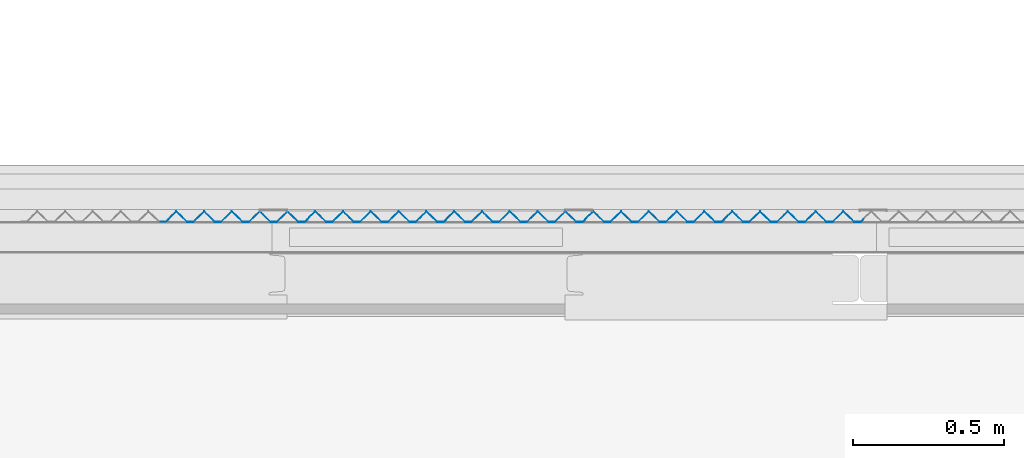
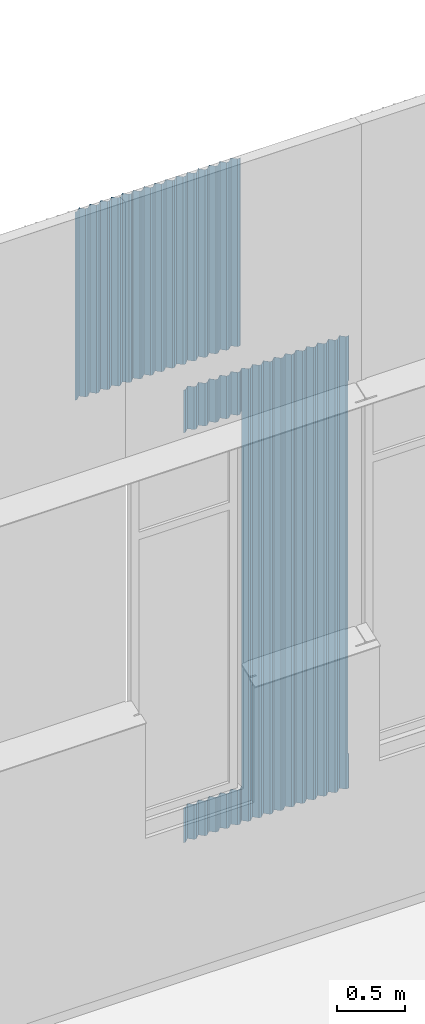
# One storey, part 108 of 338: 6 building element parts, 4 elements without a shape of their own.
"""IFC2X3 building model written with IfcOpenShell, lengths in millimetres."""

import ifcopenshell
import ifcopenshell.guid

model = None  # the IFC model being written
_history = None  # IfcOwnerHistory: only IFC2X3 demands one
_inside = {}  # id of a spatial element -> (the spatial element, [elements in it])
_under = {}  # id of a project, library or spatial element -> (it, [spatial elements below it])
_declared = {}  # id of a project -> (the project, [libraries it declares])
_typed = {}  # id of a type object -> (the type object, [elements of that type])
_made_of = {}  # id of a material, layer set ... -> (it, [elements and type objects made of it])


def new_model(schema):
    """Start an empty IFC model of exactly this schema.

    Asked for "IFC4X3", IfcOpenShell would pick the latest addendum, in which some entities
    have other attributes; the version numbers below select the first issue.
    IFC2X3 requires an IfcOwnerHistory on every rooted entity: one is made here for all.
    """
    global model, _history
    if schema == "IFC4X3":
        model = ifcopenshell.file(schema_version=(4, 3, 0, 0))
    else:
        model = ifcopenshell.file(schema=schema)
    _inside.clear()
    _under.clear()
    _declared.clear()
    _typed.clear()
    _made_of.clear()
    _history = None
    if model.schema == "IFC2X3":
        org = make("IfcOrganization", Name="unknown")
        user = make(
            "IfcPersonAndOrganization",
            ThePerson=make("IfcPerson", FamilyName="unknown"),
            TheOrganization=org,
        )
        app = make(
            "IfcApplication",
            ApplicationDeveloper=org,
            Version="unknown",
            ApplicationFullName="unknown",
            ApplicationIdentifier="unknown",
        )
        _history = make(
            "IfcOwnerHistory",
            OwningUser=user,
            OwningApplication=app,
            ChangeAction="ADDED",
            CreationDate=0,
        )
    return model


def make(cls, **values):
    """One entity of the class cls with the attributes given. An attribute that is None is left unset."""
    return model.create_entity(
        cls, **{name: value for name, value in values.items() if value is not None}
    )


def entity(cls, *values):
    """Any entity or typed value of the class cls, its attributes in the order of the schema. None: left unset."""
    e = model.create_entity(cls)
    for i, value in enumerate(values):
        if value is not None:
            e[i] = value
    return e


def rooted(cls, **values):
    """An entity with a GlobalId (a new one), such as an element, a storey or a relation."""
    return make(cls, GlobalId=ifcopenshell.guid.new(), OwnerHistory=_history, **values)


def si_unit(unit_type, name, prefix=None):
    """IfcSIUnit, for example si_unit("LENGTHUNIT", "METRE", prefix="MILLI")."""
    return make("IfcSIUnit", UnitType=unit_type, Prefix=prefix, Name=name)


def converted_unit(unit_type, name, factor, base, dimensions=None, offset=None):
    """IfcConversionBasedUnit, such as the inch: factor (a typed value) times the base unit."""
    return make(
        "IfcConversionBasedUnit"
        if offset is None
        else "IfcConversionBasedUnitWithOffset",
        ConversionOffset=offset,
        Dimensions=None
        if dimensions is None
        else entity("IfcDimensionalExponents", *dimensions),
        UnitType=unit_type,
        Name=name,
        ConversionFactor=make(
            "IfcMeasureWithUnit", ValueComponent=factor, UnitComponent=base
        ),
    )


def derived_unit(unit_type, elements):
    """IfcDerivedUnit: a product of units, each with its exponent."""
    return make(
        "IfcDerivedUnit",
        Elements=[
            make("IfcDerivedUnitElement", Unit=unit, Exponent=power)
            for unit, power in elements
        ],
        UnitType=unit_type,
    )


def money_unit(currency):
    """IfcMonetaryUnit."""
    return make("IfcMonetaryUnit", Currency=currency)


def assignment(units):
    """IfcUnitAssignment: the units of a project."""
    return None if units is None else make("IfcUnitAssignment", Units=units)


def point(xyz):
    """IfcCartesianPoint."""
    return None if xyz is None else make("IfcCartesianPoint", Coordinates=xyz)


def direction(xyz):
    """IfcDirection."""
    return None if xyz is None else make("IfcDirection", DirectionRatios=xyz)


def frame(location, z_axis=None, x_axis=None):
    """IfcAxis2Placement3D, a coordinate frame: its origin and axes. An axis left out is left unset."""
    return make(
        "IfcAxis2Placement3D",
        Location=point(location),
        Axis=direction(z_axis),
        RefDirection=direction(x_axis),
    )


def origin_with_axes():
    """The frame at (0, 0, 0) with the z axis (0, 0, 1) and the x axis (1, 0, 0) written out."""
    return frame((0.0, 0.0, 0.0), z_axis=(0.0, 0.0, 1.0), x_axis=(1.0, 0.0, 0.0))


def place(relative_to, where):
    """IfcLocalPlacement: puts the frame where relative to a parent placement (None: the world)."""
    return make(
        "IfcLocalPlacement", PlacementRelTo=relative_to, RelativePlacement=where
    )


def context(
    kind, dimensions, precision=None, world=None, true_north=None, identifier=None
):
    """IfcGeometricRepresentationContext, for example the 3D "Model" context."""
    return make(
        "IfcGeometricRepresentationContext",
        ContextIdentifier=identifier,
        ContextType=kind,
        CoordinateSpaceDimension=dimensions,
        Precision=precision,
        WorldCoordinateSystem=world,
        TrueNorth=true_north,
    )


def subcontext(parent, identifier, kind, view, scale=None):
    """IfcGeometricRepresentationSubContext, for example "Body" below "Model"."""
    return make(
        "IfcGeometricRepresentationSubContext",
        ContextIdentifier=identifier,
        ContextType=kind,
        ParentContext=parent,
        TargetScale=scale,
        TargetView=view,
    )


def project(units=None, contexts=None):
    """IfcProject with its units and contexts."""
    return rooted(
        "IfcProject",
        Name="project",
        RepresentationContexts=contexts,
        UnitsInContext=assignment(units),
    )


def spatial(cls, under=None, at=None, **own):
    """A site, building, storey or space (cls), placed at a placement, below another one or the project."""
    s = rooted(cls, ObjectPlacement=at, **own)
    if under is not None:
        _under.setdefault(under.id(), (under, []))[1].append(s)
    return s


def faces_of(points, faces, orient=None, outer=None):
    """IfcFace entities. A face is a list of loops; a loop is a list of indices into points, from 0.

    orient and outer hold one flag for each loop. By default every Orientation is true, the
    first loop of a face is its IfcFaceOuterBound and the others are IfcFaceBound.
    """
    made = []
    for i, loops in enumerate(faces):
        bounds = []
        for j, loop in enumerate(loops):
            is_outer = j == 0 if outer is None else outer[i][j]
            bounds.append(
                make(
                    "IfcFaceOuterBound" if is_outer else "IfcFaceBound",
                    Bound=make("IfcPolyLoop", Polygon=[points[k] for k in loop]),
                    Orientation=True if orient is None else orient[i][j],
                )
            )
        made.append(make("IfcFace", Bounds=bounds))
    return made


def faceted_brep(points, faces, orient=None, outer=None, voids=None):
    """IfcFacetedBrep: a solid bounded by flat faces; with voids (closed shells), ...WithVoids."""
    shared = [point(p) for p in points]
    hull = make("IfcClosedShell", CfsFaces=faces_of(shared, faces, orient, outer))
    if voids is None:
        return make("IfcFacetedBrep", Outer=hull)
    return make(
        "IfcFacetedBrepWithVoids",
        Outer=hull,
        Voids=[
            make(cls, CfsFaces=faces_of(shared, fs, o, b)) for cls, fs, o, b in voids
        ],
    )


def shape(context_of_items, identifier, shape_type, items):
    """IfcShapeRepresentation: the items that make up one representation, for example the "Body"."""
    return make(
        "IfcShapeRepresentation",
        ContextOfItems=context_of_items,
        RepresentationIdentifier=identifier,
        RepresentationType=shape_type,
        Items=items,
    )


def material(Name=None, Category=None):
    """IfcMaterial."""
    return make("IfcMaterial", Name=Name, Category=Category)


def made_of(thing, what):
    """Note that an element or type object is made of a material, layer set ...; save() writes the relation."""
    if what is not None:
        _made_of.setdefault(what.id(), (what, []))[1].append(thing)
    return thing


def type_object(cls, material=None, **own):
    """A type object (cls), such as IfcWallType, which elements share."""
    return made_of(rooted(cls, **own), material)


def element(
    cls,
    number,
    at=None,
    inside=None,
    cuts=None,
    type_object=None,
    material=None,
    context=None,
    identifier="Body",
    shape_type=None,
    held_by="IfcProductDefinitionShape",
    body=None,
    shapes=None,
    **own,
):
    """One element of the class cls, such as IfcWall. Its Tag is "e" and its number.

    at: its placement. inside: the storey or other place that contains it. cuts: it is an
    opening in that element (IfcRelVoidsElement). A single representation is given by context,
    identifier, shape_type and body (its items); several are given by shapes. held_by: the class
    of the entity that holds the representations. save() writes the other relations.
    """
    e = rooted(cls, Tag="e%d" % number, ObjectPlacement=at, **own)
    if body is not None:
        shapes = [shape(context, identifier, shape_type, body)]
    if shapes is not None:
        e.Representation = make(held_by, Representations=shapes)
    if inside is not None:
        _inside.setdefault(inside.id(), (inside, []))[1].append(e)
    if cuts is not None:
        rooted(
            "IfcRelVoidsElement", RelatingBuildingElement=cuts, RelatedOpeningElement=e
        )
    if type_object is not None:
        _typed.setdefault(type_object.id(), (type_object, []))[1].append(e)
    return made_of(e, material)


def aggregate(whole, parts):
    """IfcRelAggregates: a whole, such as a stair, and the parts it consists of."""
    return rooted("IfcRelAggregates", RelatingObject=whole, RelatedObjects=parts)


def save(model, path):
    """Write the relations noted so far, then the file.

    IfcRelAggregates (storeys below a building ...), IfcRelContainedInSpatialStructure (elements
    in a storey), IfcRelDefinesByType, IfcRelAssociatesMaterial and IfcRelDeclares: one each for
    every whole, place, type object, material and project.
    """
    for whole, parts in _under.values():
        aggregate(whole, parts)
    for where, things in _inside.values():
        rooted(
            "IfcRelContainedInSpatialStructure",
            RelatedElements=things,
            RelatingStructure=where,
        )
    for kind, things in _typed.values():
        rooted("IfcRelDefinesByType", RelatedObjects=things, RelatingType=kind)
    for what, things in _made_of.values():
        rooted("IfcRelAssociatesMaterial", RelatedObjects=things, RelatingMaterial=what)
    for by, libraries in _declared.values():
        rooted("IfcRelDeclares", RelatingContext=by, RelatedDefinitions=libraries)
    model.write(path)


model = new_model("IFC2X3")

# Units and contexts
model_context = context("Model", 3, precision=0.01, world=origin_with_axes(), true_north=direction((0.0, 1.0)))
plan_context = context("Plan", 3, precision=0.01, world=origin_with_axes(), true_north=direction((0.0, 1.0)))
body_context = subcontext(model_context, "Body", "Model", "MODEL_VIEW")
ifc_project = project(units=[si_unit("LENGTHUNIT", "METRE", prefix="MILLI"), si_unit("AREAUNIT", "SQUARE_METRE"), si_unit("VOLUMEUNIT", "CUBIC_METRE"), converted_unit("PLANEANGLEUNIT", "DEGREE", entity("IfcPlaneAngleMeasure", 0.0174532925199), si_unit("PLANEANGLEUNIT", "RADIAN"), dimensions=[0, 0, 0, 0, 0, 0, 0]), money_unit("EUR"), converted_unit("TIMEUNIT", "Year", entity("IfcTimeMeasure", 31556926.0), si_unit("TIMEUNIT", "SECOND"), dimensions=[0, 0, 1, 0, 0, 0, 0]), si_unit("MASSUNIT", "GRAM", prefix="KILO"), si_unit("THERMODYNAMICTEMPERATUREUNIT", "DEGREE_CELSIUS"), si_unit("LUMINOUSINTENSITYUNIT", "LUMEN"), si_unit("ENERGYUNIT", "JOULE", prefix="MEGA"), derived_unit("THERMALCONDUCTANCEUNIT", [(si_unit("POWERUNIT", "WATT"), 1), (si_unit("LENGTHUNIT", "METRE"), -1), (si_unit("THERMODYNAMICTEMPERATUREUNIT", "KELVIN"), -1)]), derived_unit("SPECIFICHEATCAPACITYUNIT", [(si_unit("ENERGYUNIT", "JOULE"), 1), (si_unit("MASSUNIT", "GRAM", prefix="KILO"), -1), (si_unit("THERMODYNAMICTEMPERATUREUNIT", "KELVIN"), -1)]), derived_unit("MASSDENSITYUNIT", [(si_unit("MASSUNIT", "GRAM", prefix="KILO"), 1), (si_unit("VOLUMEUNIT", "CUBIC_METRE"), -1)])], contexts=[model_context, plan_context])

# Site, building, storey
site_placement = place(None, origin_with_axes())
site = spatial("IfcSite", under=ifc_project, at=site_placement, Name="Fortuinstraat Woensdrecht", CompositionType="ELEMENT")
building_placement = place(site_placement, origin_with_axes())
building = spatial("IfcBuilding", under=site, at=building_placement, Name="IKC Fortuna", CompositionType="ELEMENT")
storey_placement = place(building_placement, origin_with_axes())
storey = spatial("IfcBuildingStorey", under=building, at=storey_placement, Name="00 begane grond", CompositionType="ELEMENT", Elevation=0.0)

# Proxy, building element parts
building_element_proxy_type = type_object("IfcBuildingElementProxyType", Name="21 Sandwich custom pyramid 946 x 37", PredefinedType="NOTDEFINED")
proxy_1_placement = place(storey_placement, frame((52349.6588228, 35596.2971073, 1000.0), z_axis=(0.0, 0.0, 1.0), x_axis=(1.0, 0.0, 0.0)))
proxy_1 = element("IfcBuildingElementProxy", 1, at=proxy_1_placement, inside=storey, type_object=building_element_proxy_type, Name="41_Generieke bekleding & afwerking buiten_sandwich custom pyramid")
ifc_material = material(Name="Metaal - Aluminium")
building_element_part_1_placement = place(proxy_1_placement, origin_with_axes())
building_element_part_1 = element("IfcBuildingElementPart", 2, at=building_element_part_1_placement, material=ifc_material, Name="Metaal - Aluminium", context=body_context, shape_type="Brep", body=[
    faceted_brep([(16.7470988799, 2.39999686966, 0.0), (16.7470988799, 2.39999686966, 315.028185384), (48.7681936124, 33.5316117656, 315.028185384), (48.7681936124, 33.5316117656, 3675.02818538), (16.7470988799, 2.39999686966, 3675.02818538), (16.7470988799, 2.39999686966, 4060.0), (52.0000026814, 36.6736482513, 4060.0), (52.0000026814, 36.6736482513, 0.0), (0.0, 2.39999686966, 0.0), (0.0, 2.39999686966, 315.028185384), (48.7681936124, 31.8579636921, 315.028185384), (0.0, 1.20000548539, 315.028185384), (17.2342926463, 1.20000548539, 315.028185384), (48.7681936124, 31.8579636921, 3675.02818538), (0.0, 2.39999686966, 3675.02818538), (17.2342926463, 1.20000548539, 3675.02818538), (0.0, 1.20000548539, 3675.02818538), (0.0, 2.39999686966, 4060.0), (0.0, 1.20000548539, 4060.0), (17.2342926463, 1.20000548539, 4060.0), (52.0000026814, 35.0000001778, 4060.0), (87.9999980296, 0.0, 4060.0), (108.000000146, 0.0, 4060.0), (143.999995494, 35.0000001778, 4060.0), (180.000004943, 0.0, 4060.0), (199.999992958, 0.0, 4060.0), (236.000002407, 35.0000001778, 4060.0), (271.999997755, 0.0, 4060.0), (291.999999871, 0.0, 4060.0), (327.99999522, 35.0000001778, 4060.0), (364.000004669, 0.0, 4060.0), (384.000006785, 0.0, 4060.0), (420.000002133, 35.0000001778, 4060.0), (455.999997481, 0.0, 4060.0), (477.721464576, 0.0, 4060.0), (486.309372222, 8.34935896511, 4060.0), (485.472879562, 9.20975302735, 4060.0), (477.23428491, 1.20000548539, 4060.0), (460.000006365, 1.20000548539, 4060.0), (456.487191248, 1.20000548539, 4060.0), (420.000002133, 36.6736482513, 4060.0), (383.512813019, 1.20000548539, 4060.0), (364.487184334, 1.20000548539, 4060.0), (327.99999522, 36.6736482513, 4060.0), (291.512820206, 1.20000548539, 4060.0), (272.487191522, 1.20000548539, 4060.0), (236.000002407, 36.6736482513, 4060.0), (199.512813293, 1.20000548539, 4060.0), (180.487184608, 1.20000548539, 4060.0), (143.999995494, 36.6736482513, 4060.0), (107.51282048, 1.20000548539, 4060.0), (88.487191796, 1.20000548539, 4060.0), (88.487191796, 1.20000548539, 0.0), (17.2342926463, 1.20000548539, 0.0), (0.0, 1.20000548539, 0.0), (107.51282048, 1.20000548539, 0.0), (143.999995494, 36.6736482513, 0.0), (180.487184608, 1.20000548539, 0.0), (199.512813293, 1.20000548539, 0.0), (236.000002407, 36.6736482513, 0.0), (272.487191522, 1.20000548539, 0.0), (291.512820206, 1.20000548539, 0.0), (327.99999522, 36.6736482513, 0.0), (364.487184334, 1.20000548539, 0.0), (383.512813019, 1.20000548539, 0.0), (420.000002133, 36.6736482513, 0.0), (456.487191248, 1.20000548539, 0.0), (460.000006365, 1.20000548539, 0.0), (477.23428491, 1.20000548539, 0.0), (485.472879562, 9.20975302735, 0.0), (486.309372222, 8.34935896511, 0.0), (477.721464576, 0.0, 0.0), (455.999997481, 0.0, 0.0), (420.000002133, 35.0000001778, 0.0), (384.000006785, 0.0, 0.0), (364.000004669, 0.0, 0.0), (327.99999522, 35.0000001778, 0.0), (291.999999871, 0.0, 0.0), (271.999997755, 0.0, 0.0), (236.000002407, 35.0000001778, 0.0), (199.999992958, 0.0, 0.0), (180.000004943, 0.0, 0.0), (143.999995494, 35.0000001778, 0.0), (108.000000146, 0.0, 0.0), (87.9999980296, 0.0, 0.0), (52.0000026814, 35.0000001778, 0.0)], [[[0, 1, 2, 3, 4, 5, 6, 7]], [[8, 9, 1, 0]], [[10, 2, 1, 9, 11, 12]], [[13, 3, 2, 10]], [[14, 4, 3, 13, 15, 16]], [[5, 4, 14, 17]], [[6, 5, 17, 18, 19, 20, 21, 22, 23, 24, 25, 26, 27, 28, 29, 30, 31, 32, 33, 34, 35, 36, 37, 38, 39, 40, 41, 42, 43, 44, 45, 46, 47, 48, 49, 50, 51]], [[6, 51, 52, 7]], [[53, 54, 8, 0, 7, 52, 55, 56, 57, 58, 59, 60, 61, 62, 63, 64, 65, 66, 67, 68, 69, 70, 71, 72, 73, 74, 75, 76, 77, 78, 79, 80, 81, 82, 83, 84, 85]], [[54, 11, 9, 8]], [[53, 12, 11, 54]], [[13, 10, 12, 53, 85, 20, 19, 15]], [[18, 16, 15, 19]], [[17, 14, 16, 18]], [[21, 20, 85, 84]], [[22, 21, 84, 83]], [[23, 22, 83, 82]], [[24, 23, 82, 81]], [[25, 24, 81, 80]], [[26, 25, 80, 79]], [[27, 26, 79, 78]], [[28, 27, 78, 77]], [[29, 28, 77, 76]], [[30, 29, 76, 75]], [[31, 30, 75, 74]], [[32, 31, 74, 73]], [[33, 32, 73, 72]], [[34, 33, 72, 71]], [[35, 34, 71, 70]], [[36, 35, 70, 69]], [[37, 36, 69, 68]], [[38, 37, 68, 67]], [[39, 38, 67, 66]], [[40, 39, 66, 65]], [[41, 40, 65, 64]], [[42, 41, 64, 63]], [[43, 42, 63, 62]], [[44, 43, 62, 61]], [[45, 44, 61, 60]], [[46, 45, 60, 59]], [[47, 46, 59, 58]], [[48, 47, 58, 57]], [[49, 48, 57, 56]], [[50, 49, 56, 55]], [[51, 50, 55, 52]]]),
])
building_element_part_2_placement = place(proxy_1_placement, origin_with_axes())
building_element_part_2 = element("IfcBuildingElementPart", 3, at=building_element_part_2_placement, material=ifc_material, Name="Metaal - Aluminium", context=body_context, shape_type="Brep", body=[
    faceted_brep([(937.721470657, 0.0, 4060.0), (937.721470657, 0.0, 3655.00076674), (946.309378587, 8.34935493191, 3655.00076674), (946.309378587, 8.34935493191, 4060.0), (933.768234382, 0.0, 310.623682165), (933.768234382, 0.0, 3655.00076674), (916.0, 0.0, 4060.0), (916.0, 0.0, 0.0), (937.721470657, 0.0, 0.0), (937.721470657, 0.0, 310.623682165), (937.234285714, 1.2, 3655.00076674), (945.472884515, 9.20974883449, 3655.00076674), (933.768234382, 1.2, 3655.00076674), (945.472884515, 9.20974883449, 4060.0), (476.747100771, 2.4, 4060.0), (460.0, 2.4, 4060.0), (460.0, 1.2, 4060.0), (477.234285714, 1.2, 4060.0), (485.472879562, 9.20975302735, 4060.0), (512.0, 35.0, 4060.0), (548.0, 0.0, 4060.0), (568.0, 0.0, 4060.0), (604.0, 35.0, 4060.0), (640.0, 0.0, 4060.0), (660.0, 0.0, 4060.0), (696.0, 35.0, 4060.0), (732.0, 0.0, 4060.0), (752.0, 0.0, 4060.0), (788.0, 35.0, 4060.0), (824.0, 0.0, 4060.0), (844.0, 0.0, 4060.0), (880.0, 35.0, 4060.0), (937.234285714, 1.2, 4060.0), (916.487184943, 1.2, 4060.0), (880.0, 36.6736520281, 4060.0), (843.512815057, 1.2, 4060.0), (824.487184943, 1.2, 4060.0), (788.0, 36.6736520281, 4060.0), (751.512815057, 1.2, 4060.0), (732.487184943, 1.2, 4060.0), (696.0, 36.6736520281, 4060.0), (659.512815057, 1.2, 4060.0), (640.487184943, 1.2, 4060.0), (604.0, 36.6736520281, 4060.0), (567.512815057, 1.2, 4060.0), (548.487184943, 1.2, 4060.0), (512.0, 36.6736520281, 4060.0), (933.768234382, 1.2, 310.623682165), (880.0, 35.0, 0.0), (485.472879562, 9.20975302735, 0.0), (477.234285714, 1.2, 0.0), (460.0, 1.2, 0.0), (460.0, 2.4, 0.0), (476.747100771, 2.4, 0.0), (512.0, 36.6736520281, 0.0), (548.487184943, 1.2, 0.0), (567.512815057, 1.2, 0.0), (604.0, 36.6736520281, 0.0), (640.487184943, 1.2, 0.0), (659.512815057, 1.2, 0.0), (696.0, 36.6736520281, 0.0), (732.487184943, 1.2, 0.0), (751.512815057, 1.2, 0.0), (788.0, 36.6736520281, 0.0), (824.487184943, 1.2, 0.0), (843.512815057, 1.2, 0.0), (880.0, 36.6736520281, 0.0), (916.487184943, 1.2, 0.0), (937.234285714, 1.2, 0.0), (945.472884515, 9.20974883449, 0.0), (946.309378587, 8.34935493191, 0.0), (844.0, 0.0, 0.0), (824.0, 0.0, 0.0), (788.0, 35.0, 0.0), (752.0, 0.0, 0.0), (732.0, 0.0, 0.0), (696.0, 35.0, 0.0), (660.0, 0.0, 0.0), (640.0, 0.0, 0.0), (604.0, 35.0, 0.0), (568.0, 0.0, 0.0), (548.0, 0.0, 0.0), (512.0, 35.0, 0.0), (946.309378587, 8.34935493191, 310.623682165), (945.472884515, 9.20974883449, 310.623682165), (937.234285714, 1.2, 310.623682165)], [[[0, 1, 2, 3]], [[4, 5, 1, 0, 6, 7, 8, 9]], [[10, 11, 2, 1, 5, 12]], [[3, 2, 11, 13]], [[14, 15, 16, 17, 18, 19, 20, 21, 22, 23, 24, 25, 26, 27, 28, 29, 30, 31, 6, 0, 3, 13, 32, 33, 34, 35, 36, 37, 38, 39, 40, 41, 42, 43, 44, 45, 46]], [[4, 47, 12, 5]], [[6, 31, 48, 7]], [[49, 50, 51, 52, 53, 54, 55, 56, 57, 58, 59, 60, 61, 62, 63, 64, 65, 66, 67, 68, 69, 70, 8, 7, 48, 71, 72, 73, 74, 75, 76, 77, 78, 79, 80, 81, 82]], [[70, 83, 9, 8]], [[4, 9, 83, 84, 85, 47]], [[13, 11, 10, 32]], [[12, 47, 85, 68, 67, 33, 32, 10]], [[15, 14, 53, 52]], [[16, 15, 52, 51]], [[17, 16, 51, 50]], [[18, 17, 50, 49]], [[19, 18, 49, 82]], [[20, 19, 82, 81]], [[21, 20, 81, 80]], [[22, 21, 80, 79]], [[23, 22, 79, 78]], [[24, 23, 78, 77]], [[25, 24, 77, 76]], [[26, 25, 76, 75]], [[27, 26, 75, 74]], [[28, 27, 74, 73]], [[29, 28, 73, 72]], [[30, 29, 72, 71]], [[31, 30, 71, 48]], [[34, 33, 67, 66]], [[35, 34, 66, 65]], [[36, 35, 65, 64]], [[37, 36, 64, 63]], [[38, 37, 63, 62]], [[39, 38, 62, 61]], [[40, 39, 61, 60]], [[41, 40, 60, 59]], [[42, 41, 59, 58]], [[43, 42, 58, 57]], [[44, 43, 57, 56]], [[45, 44, 56, 55]], [[46, 45, 55, 54]], [[14, 46, 54, 53]], [[68, 85, 84, 69]], [[69, 84, 83, 70]]]),
])
aggregate(proxy_1, [building_element_part_1, building_element_part_2])

# Proxy, building element part
proxy_2_placement = place(storey_placement, frame((51429.6588228, 35596.2971073, 1000.0), z_axis=(0.0, 0.0, 1.0), x_axis=(1.0, 0.0, 0.0)))
proxy_2 = element("IfcBuildingElementProxy", 4, at=proxy_2_placement, inside=storey, type_object=building_element_proxy_type, Name="41_Generieke bekleding & afwerking buiten_sandwich custom pyramid")
building_element_part_3_placement = place(proxy_2_placement, origin_with_axes())
building_element_part_3 = element("IfcBuildingElementPart", 5, at=building_element_part_3_placement, material=ifc_material, Name="Metaal - Aluminium", context=body_context, shape_type="Brep", body=[
    faceted_brep([(945.472884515, 9.20974883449, 0.0), (945.472884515, 9.20974883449, 315.028185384), (946.309378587, 8.34935493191, 315.028185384), (946.309378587, 8.34935493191, 0.0), (937.234285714, 1.2, 0.0), (937.234285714, 1.2, 315.028185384), (916.0, 0.0, 315.028185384), (937.721470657, 0.0, 315.028185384), (916.487184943, 1.2, 315.028185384), (880.0, 36.6736520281, 315.028185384), (843.512815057, 1.2, 315.028185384), (824.487184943, 1.2, 315.028185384), (788.0, 36.6736520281, 315.028185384), (751.512815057, 1.2, 315.028185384), (732.487184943, 1.2, 315.028185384), (696.0, 36.6736520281, 315.028185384), (659.512815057, 1.2, 315.028185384), (640.487184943, 1.2, 315.028185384), (604.0, 36.6736520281, 315.028185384), (567.512815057, 1.2, 315.028185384), (548.487184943, 1.2, 315.028185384), (512.0, 36.6736520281, 315.028185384), (476.747100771, 2.4, 315.028185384), (460.0, 2.4, 315.028185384), (460.0, 1.2, 315.028185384), (477.234285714, 1.2, 315.028185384), (485.472879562, 9.20975302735, 315.028185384), (512.0, 35.0, 315.028185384), (548.0, 0.0, 315.028185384), (568.0, 0.0, 315.028185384), (604.0, 35.0, 315.028185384), (640.0, 0.0, 315.028185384), (660.0, 0.0, 315.028185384), (696.0, 35.0, 315.028185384), (732.0, 0.0, 315.028185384), (752.0, 0.0, 315.028185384), (788.0, 35.0, 315.028185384), (824.0, 0.0, 315.028185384), (844.0, 0.0, 315.028185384), (880.0, 35.0, 315.028185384), (937.721470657, 0.0, 0.0), (485.472879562, 9.20975302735, 0.0), (477.234285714, 1.2, 0.0), (460.0, 1.2, 0.0), (460.0, 2.4, 0.0), (476.747100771, 2.4, 0.0), (512.0, 36.6736520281, 0.0), (548.487184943, 1.2, 0.0), (567.512815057, 1.2, 0.0), (604.0, 36.6736520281, 0.0), (640.487184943, 1.2, 0.0), (659.512815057, 1.2, 0.0), (696.0, 36.6736520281, 0.0), (732.487184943, 1.2, 0.0), (751.512815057, 1.2, 0.0), (788.0, 36.6736520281, 0.0), (824.487184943, 1.2, 0.0), (843.512815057, 1.2, 0.0), (880.0, 36.6736520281, 0.0), (916.487184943, 1.2, 0.0), (916.0, 0.0, 0.0), (880.0, 35.0, 0.0), (844.0, 0.0, 0.0), (824.0, 0.0, 0.0), (788.0, 35.0, 0.0), (752.0, 0.0, 0.0), (732.0, 0.0, 0.0), (696.0, 35.0, 0.0), (660.0, 0.0, 0.0), (640.0, 0.0, 0.0), (604.0, 35.0, 0.0), (568.0, 0.0, 0.0), (548.0, 0.0, 0.0), (512.0, 35.0, 0.0)], [[[0, 1, 2, 3]], [[4, 5, 1, 0]], [[6, 7, 2, 1, 5, 8, 9, 10, 11, 12, 13, 14, 15, 16, 17, 18, 19, 20, 21, 22, 23, 24, 25, 26, 27, 28, 29, 30, 31, 32, 33, 34, 35, 36, 37, 38, 39]], [[3, 2, 7, 40]], [[41, 42, 43, 44, 45, 46, 47, 48, 49, 50, 51, 52, 53, 54, 55, 56, 57, 58, 59, 4, 0, 3, 40, 60, 61, 62, 63, 64, 65, 66, 67, 68, 69, 70, 71, 72, 73]], [[59, 8, 5, 4]], [[40, 7, 6, 60]], [[58, 9, 8, 59]], [[57, 10, 9, 58]], [[56, 11, 10, 57]], [[55, 12, 11, 56]], [[54, 13, 12, 55]], [[53, 14, 13, 54]], [[52, 15, 14, 53]], [[51, 16, 15, 52]], [[50, 17, 16, 51]], [[49, 18, 17, 50]], [[48, 19, 18, 49]], [[47, 20, 19, 48]], [[46, 21, 20, 47]], [[45, 22, 21, 46]], [[44, 23, 22, 45]], [[43, 24, 23, 44]], [[42, 25, 24, 43]], [[41, 26, 25, 42]], [[73, 27, 26, 41]], [[72, 28, 27, 73]], [[71, 29, 28, 72]], [[70, 30, 29, 71]], [[69, 31, 30, 70]], [[68, 32, 31, 69]], [[67, 33, 32, 68]], [[66, 34, 33, 67]], [[65, 35, 34, 66]], [[64, 36, 35, 65]], [[63, 37, 36, 64]], [[62, 38, 37, 63]], [[61, 39, 38, 62]], [[60, 6, 39, 61]]]),
    faceted_brep([(937.721470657, 0.0, 4060.0), (937.721470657, 0.0, 3675.02818538), (946.309378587, 8.34935493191, 3675.02818538), (946.309378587, 8.34935493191, 4060.0), (916.0, 0.0, 4060.0), (916.0, 0.0, 3675.02818538), (937.234285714, 1.2, 3675.02818538), (945.472884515, 9.20974883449, 3675.02818538), (880.0, 35.0, 3675.02818538), (844.0, 0.0, 3675.02818538), (824.0, 0.0, 3675.02818538), (788.0, 35.0, 3675.02818538), (752.0, 0.0, 3675.02818538), (732.0, 0.0, 3675.02818538), (696.0, 35.0, 3675.02818538), (660.0, 0.0, 3675.02818538), (640.0, 0.0, 3675.02818538), (604.0, 35.0, 3675.02818538), (568.0, 0.0, 3675.02818538), (548.0, 0.0, 3675.02818538), (512.0, 35.0, 3675.02818538), (485.472879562, 9.20975302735, 3675.02818538), (477.234285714, 1.2, 3675.02818538), (460.0, 1.2, 3675.02818538), (460.0, 2.4, 3675.02818538), (476.747100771, 2.4, 3675.02818538), (512.0, 36.6736520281, 3675.02818538), (548.487184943, 1.2, 3675.02818538), (567.512815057, 1.2, 3675.02818538), (604.0, 36.6736520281, 3675.02818538), (640.487184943, 1.2, 3675.02818538), (659.512815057, 1.2, 3675.02818538), (696.0, 36.6736520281, 3675.02818538), (732.487184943, 1.2, 3675.02818538), (751.512815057, 1.2, 3675.02818538), (788.0, 36.6736520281, 3675.02818538), (824.487184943, 1.2, 3675.02818538), (843.512815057, 1.2, 3675.02818538), (880.0, 36.6736520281, 3675.02818538), (916.487184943, 1.2, 3675.02818538), (945.472884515, 9.20974883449, 4060.0), (476.747100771, 2.4, 4060.0), (460.0, 2.4, 4060.0), (460.0, 1.2, 4060.0), (477.234285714, 1.2, 4060.0), (485.472879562, 9.20975302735, 4060.0), (512.0, 35.0, 4060.0), (548.0, 0.0, 4060.0), (568.0, 0.0, 4060.0), (604.0, 35.0, 4060.0), (640.0, 0.0, 4060.0), (660.0, 0.0, 4060.0), (696.0, 35.0, 4060.0), (732.0, 0.0, 4060.0), (752.0, 0.0, 4060.0), (788.0, 35.0, 4060.0), (824.0, 0.0, 4060.0), (844.0, 0.0, 4060.0), (880.0, 35.0, 4060.0), (937.234285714, 1.2, 4060.0), (916.487184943, 1.2, 4060.0), (880.0, 36.6736520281, 4060.0), (843.512815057, 1.2, 4060.0), (824.487184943, 1.2, 4060.0), (788.0, 36.6736520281, 4060.0), (751.512815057, 1.2, 4060.0), (732.487184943, 1.2, 4060.0), (696.0, 36.6736520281, 4060.0), (659.512815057, 1.2, 4060.0), (640.487184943, 1.2, 4060.0), (604.0, 36.6736520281, 4060.0), (567.512815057, 1.2, 4060.0), (548.487184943, 1.2, 4060.0), (512.0, 36.6736520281, 4060.0)], [[[0, 1, 2, 3]], [[4, 5, 1, 0]], [[6, 7, 2, 1, 5, 8, 9, 10, 11, 12, 13, 14, 15, 16, 17, 18, 19, 20, 21, 22, 23, 24, 25, 26, 27, 28, 29, 30, 31, 32, 33, 34, 35, 36, 37, 38, 39]], [[3, 2, 7, 40]], [[41, 42, 43, 44, 45, 46, 47, 48, 49, 50, 51, 52, 53, 54, 55, 56, 57, 58, 4, 0, 3, 40, 59, 60, 61, 62, 63, 64, 65, 66, 67, 68, 69, 70, 71, 72, 73]], [[58, 8, 5, 4]], [[40, 7, 6, 59]], [[57, 9, 8, 58]], [[56, 10, 9, 57]], [[55, 11, 10, 56]], [[54, 12, 11, 55]], [[53, 13, 12, 54]], [[52, 14, 13, 53]], [[51, 15, 14, 52]], [[50, 16, 15, 51]], [[49, 17, 16, 50]], [[48, 18, 17, 49]], [[47, 19, 18, 48]], [[46, 20, 19, 47]], [[45, 21, 20, 46]], [[44, 22, 21, 45]], [[43, 23, 22, 44]], [[42, 24, 23, 43]], [[41, 25, 24, 42]], [[73, 26, 25, 41]], [[72, 27, 26, 73]], [[71, 28, 27, 72]], [[70, 29, 28, 71]], [[69, 30, 29, 70]], [[68, 31, 30, 69]], [[67, 32, 31, 68]], [[66, 33, 32, 67]], [[65, 34, 33, 66]], [[64, 35, 34, 65]], [[63, 36, 35, 64]], [[62, 37, 36, 63]], [[61, 38, 37, 62]], [[60, 39, 38, 61]], [[59, 6, 39, 60]]]),
])
aggregate(proxy_2, [building_element_part_3])

# Proxy, building element parts
proxy_3_placement = place(storey_placement, frame((51429.6588228, 35596.2966093, 5289.99999237), z_axis=(0.0, 0.0, 1.0), x_axis=(1.0, 0.0, 0.0)))
proxy_3 = element("IfcBuildingElementProxy", 6, at=proxy_3_placement, inside=storey, type_object=building_element_proxy_type, Name="41_Generieke bekleding & afwerking buiten_sandwich custom pyramid")
building_element_part_4_placement = place(proxy_3_placement, origin_with_axes())
building_element_part_4 = element("IfcBuildingElementPart", 7, at=building_element_part_4_placement, material=ifc_material, Name="Metaal - Aluminium", context=body_context, shape_type="Brep", body=[
    faceted_brep([(0.0, 2.39999686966, 0.0), (0.0, 1.20000548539, 0.0), (0.0, 1.20000548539, 1685.0), (0.0, 2.39999686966, 1685.0), (16.7470988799, 2.39999686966, 0.0), (52.0000026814, 36.6736482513, 0.0), (88.487191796, 1.20000548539, 0.0), (107.51282048, 1.20000548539, 0.0), (143.999995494, 36.6736482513, 0.0), (180.487184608, 1.20000548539, 0.0), (199.512813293, 1.20000548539, 0.0), (236.000002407, 36.6736482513, 0.0), (272.487191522, 1.20000548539, 0.0), (291.512820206, 1.20000548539, 0.0), (327.99999522, 36.6736482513, 0.0), (364.487184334, 1.20000548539, 0.0), (383.512813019, 1.20000548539, 0.0), (420.000002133, 36.6736482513, 0.0), (456.487191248, 1.20000548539, 0.0), (460.000006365, 1.20000548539, 0.0), (477.23428491, 1.20000548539, 0.0), (485.472879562, 9.20975302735, 0.0), (486.309372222, 8.34935896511, 0.0), (477.721464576, 0.0, 0.0), (455.999997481, 0.0, 0.0), (420.000002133, 35.0000001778, 0.0), (384.000006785, 0.0, 0.0), (364.000004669, 0.0, 0.0), (327.99999522, 35.0000001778, 0.0), (291.999999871, 0.0, 0.0), (271.999997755, 0.0, 0.0), (236.000002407, 35.0000001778, 0.0), (199.999992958, 0.0, 0.0), (180.000004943, 0.0, 0.0), (143.999995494, 35.0000001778, 0.0), (108.000000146, 0.0, 0.0), (87.9999980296, 0.0, 0.0), (52.0000026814, 35.0000001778, 0.0), (17.2342926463, 1.20000548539, 0.0), (17.2342926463, 1.20000548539, 1685.0), (52.0000026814, 35.0000001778, 1685.0), (87.9999980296, 0.0, 1685.0), (108.000000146, 0.0, 1685.0), (143.999995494, 35.0000001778, 1685.0), (180.000004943, 0.0, 1685.0), (199.999992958, 0.0, 1685.0), (236.000002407, 35.0000001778, 1685.0), (271.999997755, 0.0, 1685.0), (291.999999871, 0.0, 1685.0), (327.99999522, 35.0000001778, 1685.0), (364.000004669, 0.0, 1685.0), (384.000006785, 0.0, 1685.0), (420.000002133, 35.0000001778, 1685.0), (455.999997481, 0.0, 1685.0), (477.721464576, 0.0, 1685.0), (486.309372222, 8.34935896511, 1685.0), (485.472879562, 9.20975302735, 1685.0), (477.23428491, 1.20000548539, 1685.0), (460.000006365, 1.20000548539, 1685.0), (456.487191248, 1.20000548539, 1685.0), (420.000002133, 36.6736482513, 1685.0), (383.512813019, 1.20000548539, 1685.0), (364.487184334, 1.20000548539, 1685.0), (327.99999522, 36.6736482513, 1685.0), (291.512820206, 1.20000548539, 1685.0), (272.487191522, 1.20000548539, 1685.0), (236.000002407, 36.6736482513, 1685.0), (199.512813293, 1.20000548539, 1685.0), (180.487184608, 1.20000548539, 1685.0), (143.999995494, 36.6736482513, 1685.0), (107.51282048, 1.20000548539, 1685.0), (88.487191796, 1.20000548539, 1685.0), (52.0000026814, 36.6736482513, 1685.0), (16.7470988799, 2.39999686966, 1685.0)], [[[0, 1, 2, 3]], [[0, 4, 5, 6, 7, 8, 9, 10, 11, 12, 13, 14, 15, 16, 17, 18, 19, 20, 21, 22, 23, 24, 25, 26, 27, 28, 29, 30, 31, 32, 33, 34, 35, 36, 37, 38, 1]], [[1, 38, 39, 2]], [[3, 2, 39, 40, 41, 42, 43, 44, 45, 46, 47, 48, 49, 50, 51, 52, 53, 54, 55, 56, 57, 58, 59, 60, 61, 62, 63, 64, 65, 66, 67, 68, 69, 70, 71, 72, 73]], [[4, 0, 3, 73]], [[5, 4, 73, 72]], [[6, 5, 72, 71]], [[7, 6, 71, 70]], [[8, 7, 70, 69]], [[9, 8, 69, 68]], [[10, 9, 68, 67]], [[11, 10, 67, 66]], [[12, 11, 66, 65]], [[13, 12, 65, 64]], [[14, 13, 64, 63]], [[15, 14, 63, 62]], [[16, 15, 62, 61]], [[17, 16, 61, 60]], [[18, 17, 60, 59]], [[19, 18, 59, 58]], [[20, 19, 58, 57]], [[21, 20, 57, 56]], [[22, 21, 56, 55]], [[23, 22, 55, 54]], [[24, 23, 54, 53]], [[25, 24, 53, 52]], [[26, 25, 52, 51]], [[27, 26, 51, 50]], [[28, 27, 50, 49]], [[29, 28, 49, 48]], [[30, 29, 48, 47]], [[31, 30, 47, 46]], [[32, 31, 46, 45]], [[33, 32, 45, 44]], [[34, 33, 44, 43]], [[35, 34, 43, 42]], [[36, 35, 42, 41]], [[37, 36, 41, 40]], [[38, 37, 40, 39]]]),
])
building_element_part_5_placement = place(proxy_3_placement, origin_with_axes())
building_element_part_5 = element("IfcBuildingElementPart", 8, at=building_element_part_5_placement, material=ifc_material, Name="Metaal - Aluminium", context=body_context, shape_type="Brep", body=[
    faceted_brep([(460.0, 1.2, 0.0), (477.234285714, 1.2, 0.0), (477.234285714, 1.2, 1685.0), (460.0, 1.2, 1685.0), (460.0, 2.4, 0.0), (476.747100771, 2.4, 0.0), (512.0, 36.6736520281, 0.0), (548.487184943, 1.2, 0.0), (567.512815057, 1.2, 0.0), (604.0, 36.6736520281, 0.0), (640.487184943, 1.2, 0.0), (659.512815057, 1.2, 0.0), (696.0, 36.6736520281, 0.0), (732.487184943, 1.2, 0.0), (751.512815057, 1.2, 0.0), (788.0, 36.6736520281, 0.0), (824.487184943, 1.2, 0.0), (843.512815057, 1.2, 0.0), (880.0, 36.6736520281, 0.0), (916.487184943, 1.2, 0.0), (937.234285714, 1.2, 0.0), (945.472884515, 9.20974883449, 0.0), (946.309378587, 8.34935493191, 0.0), (937.721470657, 0.0, 0.0), (916.0, 0.0, 0.0), (880.0, 35.0, 0.0), (844.0, 0.0, 0.0), (824.0, 0.0, 0.0), (788.0, 35.0, 0.0), (752.0, 0.0, 0.0), (732.0, 0.0, 0.0), (696.0, 35.0, 0.0), (660.0, 0.0, 0.0), (640.0, 0.0, 0.0), (604.0, 35.0, 0.0), (568.0, 0.0, 0.0), (548.0, 0.0, 0.0), (512.0, 35.0, 0.0), (485.472879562, 9.20975302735, 0.0), (485.472879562, 9.20975302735, 1685.0), (512.0, 35.0, 1685.0), (548.0, 0.0, 1685.0), (568.0, 0.0, 1685.0), (604.0, 35.0, 1685.0), (640.0, 0.0, 1685.0), (660.0, 0.0, 1685.0), (696.0, 35.0, 1685.0), (732.0, 0.0, 1685.0), (752.0, 0.0, 1685.0), (788.0, 35.0, 1685.0), (824.0, 0.0, 1685.0), (844.0, 0.0, 1685.0), (880.0, 35.0, 1685.0), (916.0, 0.0, 1685.0), (937.721470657, 0.0, 1685.0), (946.309378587, 8.34935493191, 1685.0), (945.472884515, 9.20974883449, 1685.0), (937.234285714, 1.2, 1685.0), (916.487184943, 1.2, 1685.0), (880.0, 36.6736520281, 1685.0), (843.512815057, 1.2, 1685.0), (824.487184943, 1.2, 1685.0), (788.0, 36.6736520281, 1685.0), (751.512815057, 1.2, 1685.0), (732.487184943, 1.2, 1685.0), (696.0, 36.6736520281, 1685.0), (659.512815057, 1.2, 1685.0), (640.487184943, 1.2, 1685.0), (604.0, 36.6736520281, 1685.0), (567.512815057, 1.2, 1685.0), (548.487184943, 1.2, 1685.0), (512.0, 36.6736520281, 1685.0), (476.747100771, 2.4, 1685.0), (460.0, 2.4, 1685.0)], [[[0, 1, 2, 3]], [[0, 4, 5, 6, 7, 8, 9, 10, 11, 12, 13, 14, 15, 16, 17, 18, 19, 20, 21, 22, 23, 24, 25, 26, 27, 28, 29, 30, 31, 32, 33, 34, 35, 36, 37, 38, 1]], [[1, 38, 39, 2]], [[3, 2, 39, 40, 41, 42, 43, 44, 45, 46, 47, 48, 49, 50, 51, 52, 53, 54, 55, 56, 57, 58, 59, 60, 61, 62, 63, 64, 65, 66, 67, 68, 69, 70, 71, 72, 73]], [[4, 0, 3, 73]], [[5, 4, 73, 72]], [[6, 5, 72, 71]], [[7, 6, 71, 70]], [[8, 7, 70, 69]], [[9, 8, 69, 68]], [[10, 9, 68, 67]], [[11, 10, 67, 66]], [[12, 11, 66, 65]], [[13, 12, 65, 64]], [[14, 13, 64, 63]], [[15, 14, 63, 62]], [[16, 15, 62, 61]], [[17, 16, 61, 60]], [[18, 17, 60, 59]], [[19, 18, 59, 58]], [[20, 19, 58, 57]], [[21, 20, 57, 56]], [[22, 21, 56, 55]], [[23, 22, 55, 54]], [[24, 23, 54, 53]], [[25, 24, 53, 52]], [[26, 25, 52, 51]], [[27, 26, 51, 50]], [[28, 27, 50, 49]], [[29, 28, 49, 48]], [[30, 29, 48, 47]], [[31, 30, 47, 46]], [[32, 31, 46, 45]], [[33, 32, 45, 44]], [[34, 33, 44, 43]], [[35, 34, 43, 42]], [[36, 35, 42, 41]], [[37, 36, 41, 40]], [[38, 37, 40, 39]]]),
])
aggregate(proxy_3, [building_element_part_4, building_element_part_5])

# Proxy, building element part
proxy_4_placement = place(storey_placement, frame((50509.6588228, 35596.2966199, 5289.99999237), z_axis=(0.0, 0.0, 1.0), x_axis=(1.0, 0.0, 0.0)))
proxy_4 = element("IfcBuildingElementProxy", 9, at=proxy_4_placement, inside=storey, type_object=building_element_proxy_type, Name="41_Generieke bekleding & afwerking buiten_sandwich custom pyramid")
building_element_part_6_placement = place(proxy_4_placement, origin_with_axes())
building_element_part_6 = element("IfcBuildingElementPart", 10, at=building_element_part_6_placement, material=ifc_material, Name="Metaal - Aluminium", context=body_context, shape_type="Brep", body=[
    faceted_brep([(460.0, 1.2, 0.0), (477.234285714, 1.2, 0.0), (477.234285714, 1.2, 1690.00000566), (460.0, 1.2, 1690.00000566), (460.0, 2.4, 0.0), (476.747100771, 2.4, 0.0), (512.0, 36.6736520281, 0.0), (548.487184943, 1.2, 0.0), (567.512815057, 1.2, 0.0), (604.0, 36.6736520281, 0.0), (640.487184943, 1.2, 0.0), (659.512815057, 1.2, 0.0), (696.0, 36.6736520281, 0.0), (732.487184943, 1.2, 0.0), (751.512815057, 1.2, 0.0), (788.0, 36.6736520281, 0.0), (824.487184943, 1.2, 0.0), (843.512815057, 1.2, 0.0), (880.0, 36.6736520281, 0.0), (916.487184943, 1.2, 0.0), (937.234285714, 1.2, 0.0), (945.472884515, 9.20974883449, 0.0), (946.309378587, 8.34935493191, 0.0), (937.721470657, 0.0, 0.0), (916.0, 0.0, 0.0), (880.0, 35.0, 0.0), (844.0, 0.0, 0.0), (824.0, 0.0, 0.0), (788.0, 35.0, 0.0), (752.0, 0.0, 0.0), (732.0, 0.0, 0.0), (696.0, 35.0, 0.0), (660.0, 0.0, 0.0), (640.0, 0.0, 0.0), (604.0, 35.0, 0.0), (568.0, 0.0, 0.0), (548.0, 0.0, 0.0), (512.0, 35.0, 0.0), (485.472879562, 9.20975302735, 0.0), (485.472879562, 9.20975302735, 1690.00000566), (512.0, 35.0, 1690.00000566), (548.0, 0.0, 1690.00000566), (568.0, 0.0, 1690.00000566), (604.0, 35.0, 1690.00000566), (640.0, 0.0, 1690.00000566), (660.0, 0.0, 1690.00000566), (696.0, 35.0, 1690.00000566), (732.0, 0.0, 1690.00000566), (752.0, 0.0, 1690.00000566), (788.0, 35.0, 1690.00000566), (824.0, 0.0, 1690.00000566), (844.0, 0.0, 1690.00000566), (880.0, 35.0, 1690.00000566), (916.0, 0.0, 1690.00000566), (937.721470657, 0.0, 1690.00000566), (946.309378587, 8.34935493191, 1690.00000566), (945.472884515, 9.20974883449, 1690.00000566), (937.234285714, 1.2, 1690.00000566), (916.487184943, 1.2, 1690.00000566), (880.0, 36.6736520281, 1690.00000566), (843.512815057, 1.2, 1690.00000566), (824.487184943, 1.2, 1690.00000566), (788.0, 36.6736520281, 1690.00000566), (751.512815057, 1.2, 1690.00000566), (732.487184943, 1.2, 1690.00000566), (696.0, 36.6736520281, 1690.00000566), (659.512815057, 1.2, 1690.00000566), (640.487184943, 1.2, 1690.00000566), (604.0, 36.6736520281, 1690.00000566), (567.512815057, 1.2, 1690.00000566), (548.487184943, 1.2, 1690.00000566), (512.0, 36.6736520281, 1690.00000566), (476.747100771, 2.4, 1690.00000566), (460.0, 2.4, 1690.00000566)], [[[0, 1, 2, 3]], [[0, 4, 5, 6, 7, 8, 9, 10, 11, 12, 13, 14, 15, 16, 17, 18, 19, 20, 21, 22, 23, 24, 25, 26, 27, 28, 29, 30, 31, 32, 33, 34, 35, 36, 37, 38, 1]], [[1, 38, 39, 2]], [[3, 2, 39, 40, 41, 42, 43, 44, 45, 46, 47, 48, 49, 50, 51, 52, 53, 54, 55, 56, 57, 58, 59, 60, 61, 62, 63, 64, 65, 66, 67, 68, 69, 70, 71, 72, 73]], [[4, 0, 3, 73]], [[5, 4, 73, 72]], [[6, 5, 72, 71]], [[7, 6, 71, 70]], [[8, 7, 70, 69]], [[9, 8, 69, 68]], [[10, 9, 68, 67]], [[11, 10, 67, 66]], [[12, 11, 66, 65]], [[13, 12, 65, 64]], [[14, 13, 64, 63]], [[15, 14, 63, 62]], [[16, 15, 62, 61]], [[17, 16, 61, 60]], [[18, 17, 60, 59]], [[19, 18, 59, 58]], [[20, 19, 58, 57]], [[21, 20, 57, 56]], [[22, 21, 56, 55]], [[23, 22, 55, 54]], [[24, 23, 54, 53]], [[25, 24, 53, 52]], [[26, 25, 52, 51]], [[27, 26, 51, 50]], [[28, 27, 50, 49]], [[29, 28, 49, 48]], [[30, 29, 48, 47]], [[31, 30, 47, 46]], [[32, 31, 46, 45]], [[33, 32, 45, 44]], [[34, 33, 44, 43]], [[35, 34, 43, 42]], [[36, 35, 42, 41]], [[37, 36, 41, 40]], [[38, 37, 40, 39]]]),
])
aggregate(proxy_4, [building_element_part_6])

save(model, "model.ifc")
